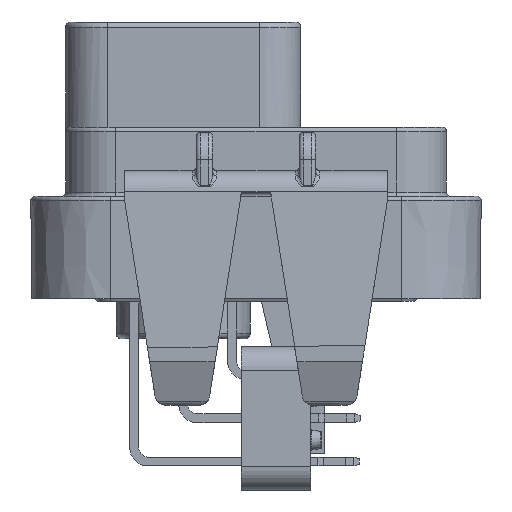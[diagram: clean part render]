
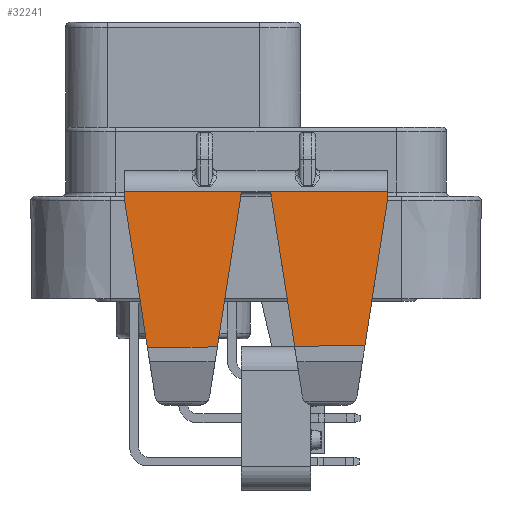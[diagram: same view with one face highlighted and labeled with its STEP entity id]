
A CAD part, left-side view. The second image highlights one B-rep face of the part: STEP entity #32241.
In plain terms, the highlighted planar face has unit normal (-0.998, 0, 0.056).
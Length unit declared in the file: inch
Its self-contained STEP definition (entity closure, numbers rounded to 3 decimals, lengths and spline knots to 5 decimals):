
#1771=DIRECTION('',(0.056,0.,0.998));
#1772=VECTOR('',#1771,0.03151);
#1773=CARTESIAN_POINT('',(-2.40134,0.475,-0.015));
#1774=LINE('',#1773,#1772);
#1861=DIRECTION('',(0.056,0.,0.998));
#1862=VECTOR('',#1861,0.03151);
#1863=CARTESIAN_POINT('',(-2.40134,-0.475,-0.015));
#1864=LINE('',#1863,#1862);
#3000=DIRECTION('',(0.,1.,0.));
#3001=VECTOR('',#3000,0.95);
#3002=CARTESIAN_POINT('',(-2.39958,-0.475,0.01647));
#3003=LINE('',#3002,#3001);
#3463=DIRECTION('',(0.,1.,-0.009));
#3464=VECTOR('',#3463,0.25192);
#3465=CARTESIAN_POINT('',(-2.43106,0.14012,
-0.54666));
#3466=LINE('',#3465,#3464);
#3467=DIRECTION('',(0.055,0.153,0.987));
#3468=VECTOR('',#3467,0.54112);
#3469=CARTESIAN_POINT('',(-2.43119,0.39203,
-0.54889));
#3470=LINE('',#3469,#3468);
#3471=DIRECTION('',(0.055,-0.153,0.987));
#3472=VECTOR('',#3471,0.53408);
#3473=CARTESIAN_POINT('',(-2.4308,-0.39311,
-0.54194));
#3474=LINE('',#3473,#3472);
#3475=DIRECTION('',(0.,1.,-0.009));
#3476=VECTOR('',#3475,0.25338);
#3477=CARTESIAN_POINT('',(-2.4308,-0.39311,
-0.54194));
#3478=LINE('',#3477,#3476);
#3479=DIRECTION('',(0.,-1.,0.));
#3480=VECTOR('',#3479,0.10661);
#3481=CARTESIAN_POINT('',(-2.39983,0.0533,0.012));
#3482=LINE('',#3481,#3480);
#3495=DIRECTION('',(0.055,-0.153,0.987));
#3496=VECTOR('',#3495,0.56623);
#3497=CARTESIAN_POINT('',(-2.43106,0.14012,
-0.54666));
#3498=LINE('',#3497,#3496);
#3794=DIRECTION('',(-0.055,-0.153,-0.987));
#3795=VECTOR('',#3794,0.56372);
#3796=CARTESIAN_POINT('',(-2.39983,-0.0533,0.012));
#3797=LINE('',#3796,#3795);
#22668=CARTESIAN_POINT('',(-2.39958,-0.475,0.01647));
#22670=VERTEX_POINT('',#22668);
#22672=CARTESIAN_POINT('',(-2.39958,0.475,0.01647));
#22674=VERTEX_POINT('',#22672);
#23188=CARTESIAN_POINT('',(-2.40134,-0.475,-0.015));
#23190=VERTEX_POINT('',#23188);
#23192=CARTESIAN_POINT('',(-2.40134,0.475,-0.015));
#23194=VERTEX_POINT('',#23192);
#23208=CARTESIAN_POINT('',(-2.39983,0.0533,0.012));
#23209=CARTESIAN_POINT('',(-2.39983,-0.0533,0.012));
#23210=VERTEX_POINT('',#23208);
#23211=VERTEX_POINT('',#23209);
#23212=CARTESIAN_POINT('',(-2.4308,-0.39311,
-0.54194));
#23213=VERTEX_POINT('',#23212);
#23214=CARTESIAN_POINT('',(-2.43119,0.39203,
-0.54889));
#23215=VERTEX_POINT('',#23214);
#27034=CARTESIAN_POINT('',(-2.43106,0.14012,
-0.54666));
#27035=VERTEX_POINT('',#27034);
#27036=CARTESIAN_POINT('',(-2.43092,-0.13974,
-0.54418));
#27037=VERTEX_POINT('',#27036);
#32217=CARTESIAN_POINT('',(-2.43189,-0.475,-0.56152));
#32218=DIRECTION('',(-0.998,0.,0.056));
#32219=DIRECTION('',(0.056,0.,0.998));
#32220=AXIS2_PLACEMENT_3D('',#32217,#32218,#32219);
#32221=PLANE('',#32220);
#32223=ORIENTED_EDGE('',*,*,#32222,.F.);
#32225=ORIENTED_EDGE('',*,*,#32224,.T.);
#32227=ORIENTED_EDGE('',*,*,#32226,.T.);
#32228=ORIENTED_EDGE('',*,*,#29576,.T.);
#32229=ORIENTED_EDGE('',*,*,#31452,.F.);
#32230=ORIENTED_EDGE('',*,*,#29683,.F.);
#32232=ORIENTED_EDGE('',*,*,#32231,.F.);
#32234=ORIENTED_EDGE('',*,*,#32233,.T.);
#32236=ORIENTED_EDGE('',*,*,#32235,.F.);
#32238=ORIENTED_EDGE('',*,*,#32237,.F.);
#32239=EDGE_LOOP('',(#32223,#32225,#32227,#32228,#32229,#32230,#32232,#32234,
#32236,#32238));
#32240=FACE_OUTER_BOUND('',#32239,.F.);
#32241=ADVANCED_FACE('',(#32240),#32221,.T.);
#29576=EDGE_CURVE('',#23194,#22674,#1774,.T.);
#29683=EDGE_CURVE('',#23190,#22670,#1864,.T.);
#31452=EDGE_CURVE('',#22670,#22674,#3003,.T.);
#32222=EDGE_CURVE('',#27035,#23210,#3498,.T.);
#32224=EDGE_CURVE('',#27035,#23215,#3466,.T.);
#32226=EDGE_CURVE('',#23215,#23194,#3470,.T.);
#32231=EDGE_CURVE('',#23213,#23190,#3474,.T.);
#32233=EDGE_CURVE('',#23213,#27037,#3478,.T.);
#32235=EDGE_CURVE('',#23211,#27037,#3797,.T.);
#32237=EDGE_CURVE('',#23210,#23211,#3482,.T.);
